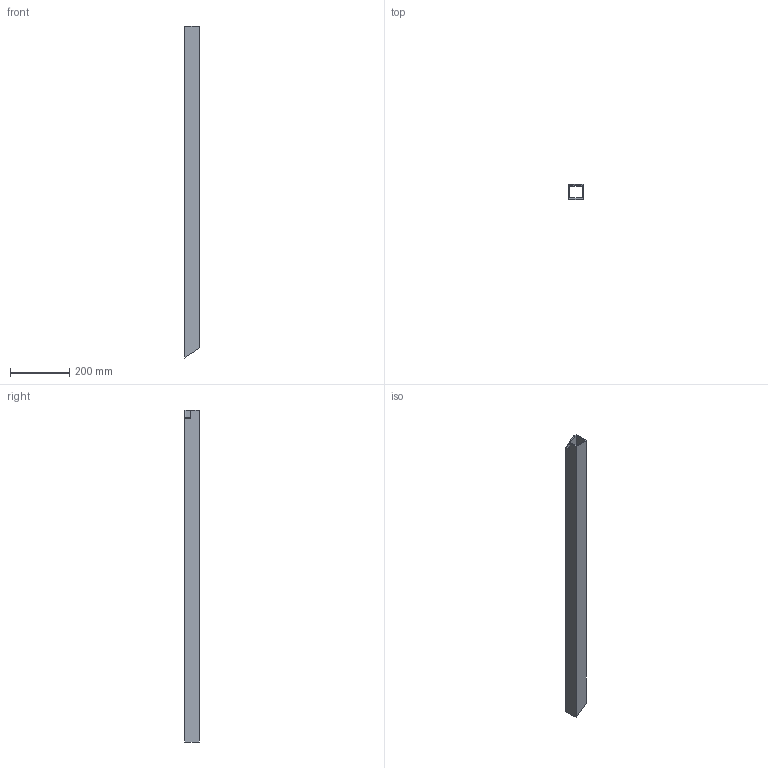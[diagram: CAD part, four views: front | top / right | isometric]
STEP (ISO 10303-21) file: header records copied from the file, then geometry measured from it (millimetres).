
FILE_DESCRIPTION(('Open CASCADE Model'),'2;1');
FILE_NAME('Open CASCADE Shape Model','2026-10-15T15:10:08',('Author'),( 'Open CASCADE'),'Open CASCADE STEP processor 8.0','Open CASCADE 8.0' ,'Unknown');
FILE_SCHEMA(('AUTOMOTIVE_DESIGN { 1 0 10303 214 1 1 1 1 }'));
Length unit declared in the file: millimetre
Products named in the file (1): SHS50x50x4_L1101268_CUT8d077a_P05_JUNTA_22 203
Bounding box: 50 x 50 x 1118.77 mm (x, y, z)
Volume: 806583.9 mm3; surface area: 405073.5 mm2
Topology: 1 solids, 1 shells, 13 faces, 36 edges, 24 vertices
Faces by surface type: plane 12, cylinder 1
Entity records: 856 total; most frequent: CARTESIAN_POINT 208, DIRECTION 88, ORIENTED_EDGE 72, PCURVE 72, DEFINITIONAL_REPRESENTATION 72, LINE 54, VECTOR 54, B_SPLINE_CURVE_WITH_KNOTS 50
